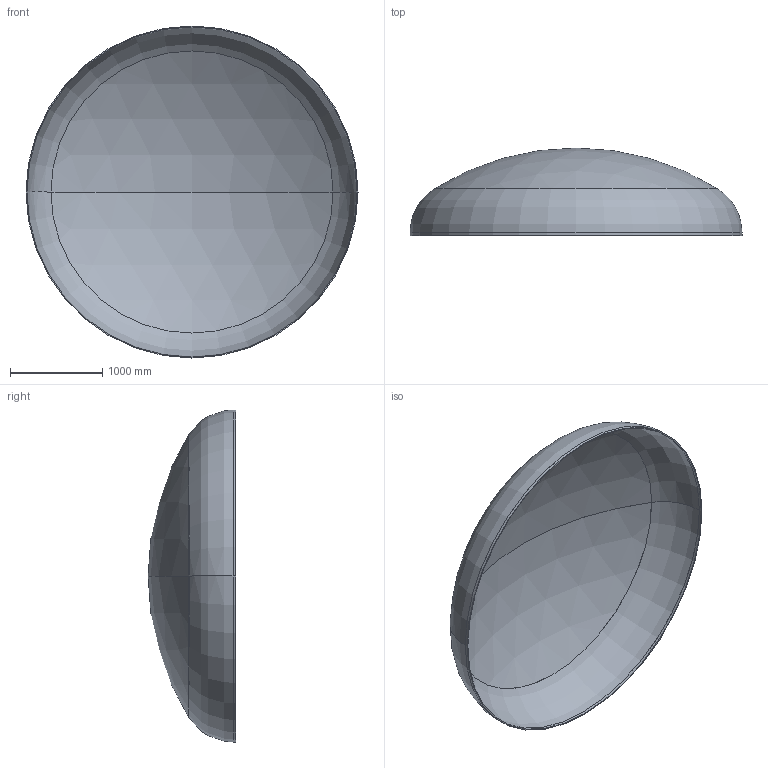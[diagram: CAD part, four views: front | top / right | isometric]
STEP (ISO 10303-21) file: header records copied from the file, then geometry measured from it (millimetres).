
FILE_DESCRIPTION (( 'STEP AP203' ), '1' );
FILE_NAME ('DIN 28013 Korbbogenform_-_Boden DIN 28013 - 3600 x 30 - I - s=10.step', '2016-07-01T20:04:29', ( '' ), ( '' ), 'SwSTEP 2.0', 'SolidWorks 2013', '' );
FILE_SCHEMA (( 'CONFIG_CONTROL_DESIGN' ));
Length unit declared in the file: millimetre
Products named in the file (1): DIN 28013 Korbbogenform_-_Boden DIN 28013 - 3600 x 30 - I - s=10
Bounding box: 3600 x 950.13 x 3600 mm (x, y, z)
Volume: 143881099 mm3; surface area: 28889200.6 mm2
Topology: 1 solids, 1 shells, 13 faces, 24 edges, 14 vertices
Faces by surface type: torus 4, cylinder 4, sphere 4, plane 1
Entity records: 407 total; most frequent: DIRECTION 72, CARTESIAN_POINT 52, ORIENTED_EDGE 48, AXIS2_PLACEMENT_3D 34, EDGE_CURVE 24, CIRCLE 20, EDGE_LOOP 14, VERTEX_POINT 14
